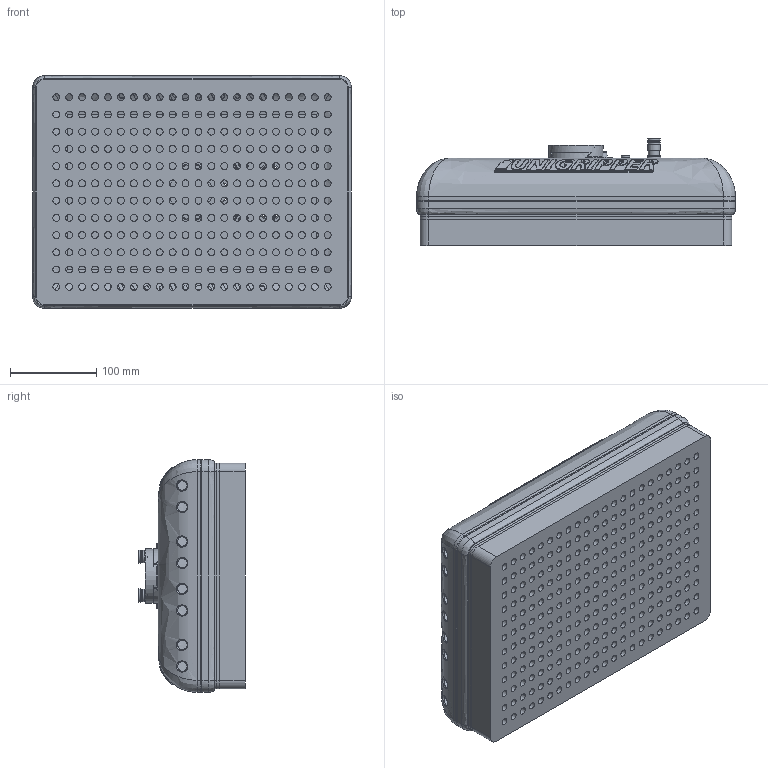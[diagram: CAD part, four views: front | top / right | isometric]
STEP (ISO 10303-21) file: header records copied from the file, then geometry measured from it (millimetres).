
FILE_DESCRIPTION (( 'STEP AP214' ), '1' );
FILE_NAME ('42905-613.STEP', '2020-01-21T08:58:00', ( '' ), ( '' ), 'SwSTEP 2.0', 'SolidWorks 2019', '' );
FILE_SCHEMA (( 'AUTOMOTIVE_DESIGN' ));
Length unit declared in the file: millimetre
Products named in the file (1): 42905-613
Bounding box: 370 x 123.95 x 270 mm (x, y, z)
Surface area: 594832.1 mm2 (no closed solid volume)
Topology: 0 solids, 43 shells, 1089 faces, 3796 edges, 2604 vertices
Faces by surface type: cylinder 444, bspline 395, plane 157, sphere 44, torus 27, cone 22
Full cylindrical faces by diameter (mm): 6 x2, 6.2 x4, 8 x266, 8.2 x2, 9.7 x2, 10.7 x4, 11 x8, 12.8 x2, 13 x2, 13.9 x2, 14 x2, 14.4 x4, 17 x4, 20 x2, 63 x1
Entity records: 90342 total; most frequent: CARTESIAN_POINT 51357, ORIENTED_EDGE 4808, DIRECTION 4730, EDGE_CURVE 3298, VERTEX_POINT 2495, AXIS2_PLACEMENT_3D 2102, EDGE_LOOP 2036, CIRCLE 1431
